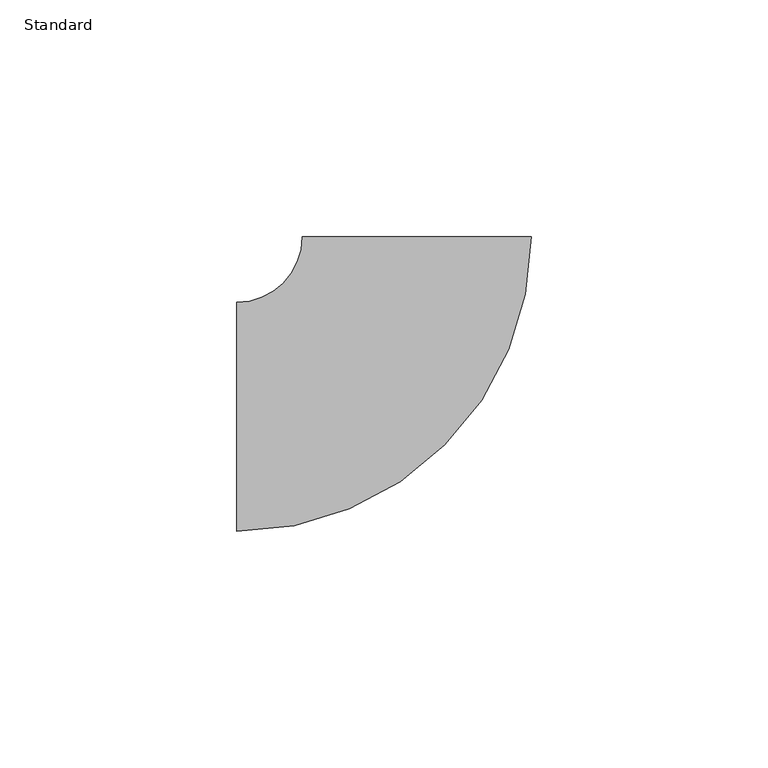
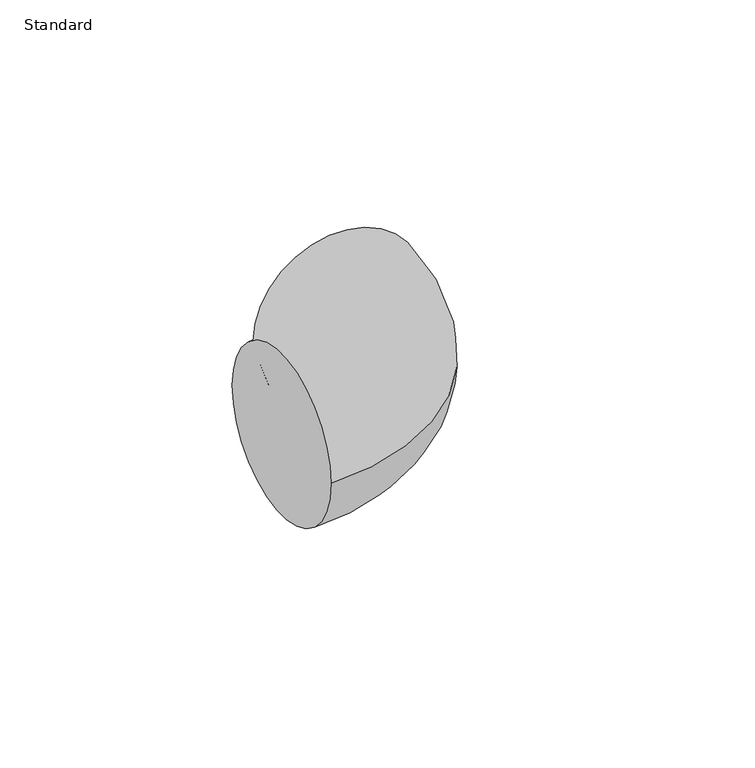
"""IFC4 building model written with IfcOpenShell, lengths in millimetres: pipe fitting geometry, Coude - Générique : Standard."""

from ifc_helpers import new_model, si_unit, point, frame, origin, place, context, project, spatial, circle_curve, ellipse_curve, trimmed, source, transform, mapped, element, save
from ifc_brep_helpers import plane_surface, revolved_surface, advanced_brep


def standard_a873af96(model_context):
    return source(origin(), model_context, "Body", "AdvancedBrep", [
        advanced_brep(
        [(-38.0, -24.15, 0.0), (-38.0, 24.15, 0.0), (24.1448092, 38.0032984, 0.0), (-24.1551903, 37.9967009, 0.0)],
        [
            (0, 1, circle_curve(frame((-38.0, 0.0, 0.0), z_axis=(-1.0, 0.0, 0.0), x_axis=(0.0, 1.0, 0.0)), 24.15)),
            (1, 0, circle_curve(frame((-38.0, 0.0, 0.0), z_axis=(-1.0, 0.0, 0.0), x_axis=(0.0, 1.0, 0.0)), 24.15)),
            (2, 3, circle_curve(frame((-0.0051905, 37.9999996, 0.0), z_axis=(-0.00013659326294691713, 0.9999999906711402, 0.0), x_axis=(-0.9999999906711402, -0.00013659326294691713, 0.0)), 24.15)),
            (3, 2, circle_curve(frame((-0.0051905, 37.9999996, 0.0), z_axis=(-0.00013659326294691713, 0.9999999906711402, 0.0), x_axis=(-0.9999999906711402, -0.00013659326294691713, 0.0)), 24.15)),
            (3, 1, circle_curve(frame((-38.0, 37.9948098, 0.0), z_axis=(0.0, 0.0, -1.0), x_axis=(0.0, -1.0, 0.0)), 13.8448098)),
            (0, 2, circle_curve(frame((-38.0, 37.9948098, 0.0), z_axis=(0.0, 0.0, 1.0), x_axis=(0.0, -1.0, 0.0)), 62.1448098)),
        ],
        [
            plane_surface(frame((-38.0, 0.0, 0.0), z_axis=(-1.0, 0.0, 0.0), x_axis=(0.0, 0.0, 1.0))),
            plane_surface(frame((-0.0051905, 37.9999996, 0.0), z_axis=(-0.00013659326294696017, 0.9999999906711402, 0.0), x_axis=(0.0, 0.0, 1.0))),
            revolved_surface(trimmed(ellipse_curve(frame((-38.0, 0.0, 0.0), z_axis=(-1.0, 0.0, 0.0), x_axis=(0.0, 1.0, 0.0)), 24.15, 24.15), [point((-38.0, -24.15, 0.0))], [point((-38.0, 24.15, 0.0))], True, "CARTESIAN"), (-38.0, 37.9948098, 0.0), (0.0, 0.0, 1.0)),
            revolved_surface(trimmed(ellipse_curve(frame((-38.0, 0.0, 0.0), z_axis=(-1.0, 0.0, 0.0), x_axis=(0.0, 1.0, 0.0)), 24.15, 24.15), [point((-38.0, 24.15, 0.0))], [point((-38.0, -24.15, 0.0))], True, "CARTESIAN"), (-38.0, 37.9948098, 0.0), (0.0, 0.0, 1.0)),
        ],
        [
            (0, [[1, 2]]),
            (1, [[3, 4]]),
            (2, [[5, -1, 6, -4]]),
            (3, [[-6, -2, -5, -3]]),
        ],
    ),
    ])


if __name__ == "__main__":
    model = new_model("IFC4")
    model_context = context("Model", 3, world=origin())
    ifc_project = project(units=[si_unit("LENGTHUNIT", "METRE", prefix="MILLI")], contexts=[model_context])
    site = spatial("IfcSite", under=ifc_project)
    building = spatial("IfcBuilding", under=site)
    placement = place(None, origin())
    standard_shape = standard_a873af96(model_context)
    element("IfcPipeFitting", 1, ObjectType="Coude - Générique : Standard", at=placement, inside=building, context=model_context, shape_type="MappedRepresentation", body=[
        mapped(standard_shape, transform((0.0, 0.0, 0.0), x_axis=(1.0, 0.0, 0.0), y_axis=(0.0, 1.0, 0.0), z_axis=(0.0, 0.0, 1.0))),
    ])
    save(model, "model.ifc")
